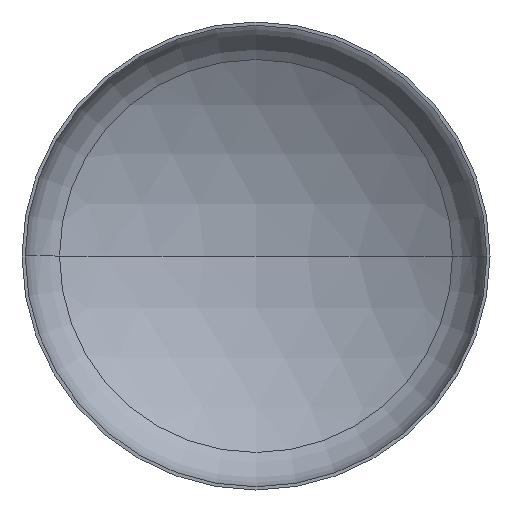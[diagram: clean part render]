
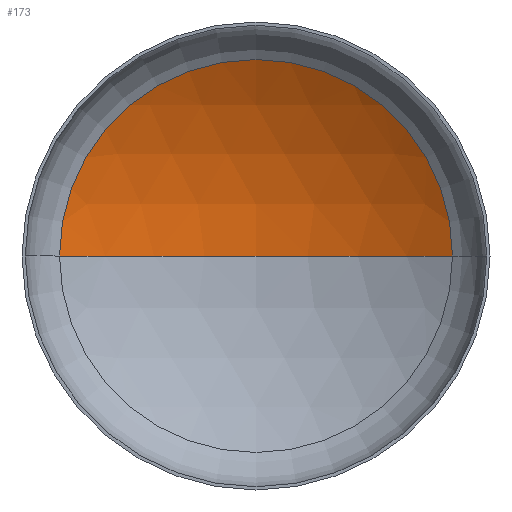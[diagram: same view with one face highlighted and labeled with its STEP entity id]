
A CAD part, front view. The second image highlights one B-rep face of the part: STEP entity #173.
In plain terms, the highlighted spherical face has radius 2880 mm.
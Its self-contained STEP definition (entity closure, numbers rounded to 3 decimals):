
#8 = VERTEX_POINT ( 'NONE', #231 ) ;
#23 = EDGE_LOOP ( 'NONE', ( #78, #224, #126 ) ) ;
#32 = AXIS2_PLACEMENT_3D ( 'NONE', #191, #316, #205 ) ;
#36 = AXIS2_PLACEMENT_3D ( 'NONE', #229, #226, #228 ) ;
#37 = AXIS2_PLACEMENT_3D ( 'NONE', #187, #199, #201 ) ;
#44 = AXIS2_PLACEMENT_3D ( 'NONE', #318, #315, #304 ) ;
#58 = FACE_OUTER_BOUND ( 'NONE', #23, .T. ) ;
#60 = VERTEX_POINT ( 'NONE', #297 ) ;
#73 = EDGE_CURVE ( 'NONE', #75, #8, #380, .T. ) ;
#74 = EDGE_CURVE ( 'NONE', #60, #75, #259, .T. ) ;
#75 = VERTEX_POINT ( 'NONE', #347 ) ;
#76 = EDGE_CURVE ( 'NONE', #60, #8, #312, .T. ) ;
#78 = ORIENTED_EDGE ( 'NONE', *, *, #76, .F. ) ;
#126 = ORIENTED_EDGE ( 'NONE', *, *, #73, .T. ) ;
#173 = ADVANCED_FACE ( 'NONE', ( #58 ), #254, .F. ) ;
#187 = CARTESIAN_POINT ( 'NONE',  ( 0., -1904.198, 0. ) ) ;
#191 = CARTESIAN_POINT ( 'NONE',  ( 0., -1904.198, 0. ) ) ;
#199 = DIRECTION ( 'NONE',  ( 0., 0., -1. ) ) ;
#201 = DIRECTION ( 'NONE',  ( -1., 0., 0. ) ) ;
#205 = DIRECTION ( 'NONE',  ( -1., 0., 0. ) ) ;
#224 = ORIENTED_EDGE ( 'NONE', *, *, #74, .T. ) ;
#226 = DIRECTION ( 'NONE',  ( 0., 0., 1. ) ) ;
#228 = DIRECTION ( 'NONE',  ( 1., 0., 0. ) ) ;
#229 = CARTESIAN_POINT ( 'NONE',  ( 0., -1904.198, 0. ) ) ;
#231 = CARTESIAN_POINT ( 'NONE',  ( -1511.226, 547.454, 0. ) ) ;
#254 = SPHERICAL_SURFACE ( 'NONE', #32, 2880. ) ;
#259 = CIRCLE ( 'NONE', #37, 2880. ) ;
#297 = CARTESIAN_POINT ( 'NONE',  ( 0., 975.802, 0. ) ) ;
#304 = DIRECTION ( 'NONE',  ( 1., 0., 0. ) ) ;
#312 = CIRCLE ( 'NONE', #36, 2880. ) ;
#315 = DIRECTION ( 'NONE',  ( 0., -1., 0. ) ) ;
#316 = DIRECTION ( 'NONE',  ( 0., 0., -1. ) ) ;
#318 = CARTESIAN_POINT ( 'NONE',  ( 0., 547.454, 0. ) ) ;
#347 = CARTESIAN_POINT ( 'NONE',  ( 1511.226, 547.454, 0. ) ) ;
#380 = CIRCLE ( 'NONE', #44, 1511.226 ) ;
